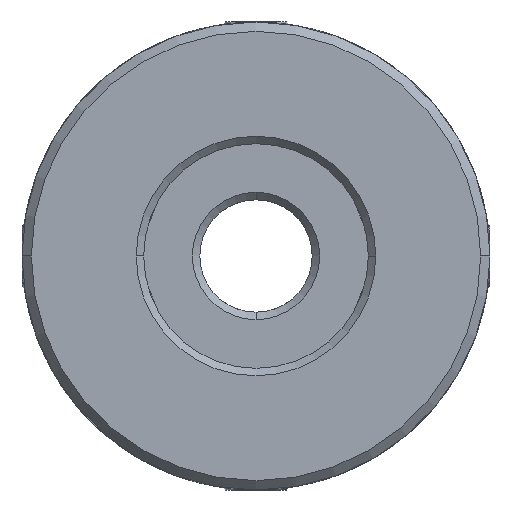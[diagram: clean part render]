
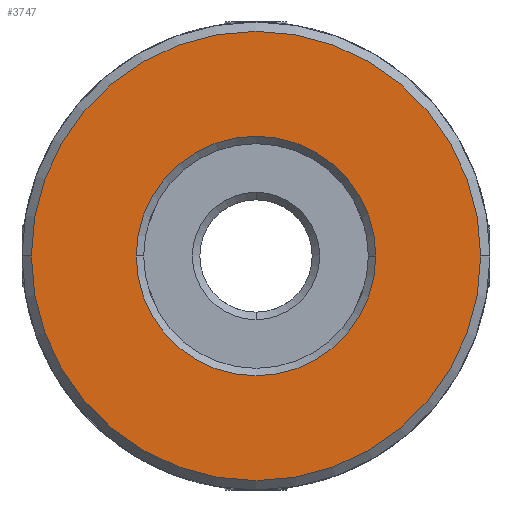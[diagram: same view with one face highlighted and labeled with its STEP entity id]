
A CAD part, front view. The second image highlights one B-rep face of the part: STEP entity #3747.
In plain terms, the highlighted planar face has unit normal (0, -1, 0).
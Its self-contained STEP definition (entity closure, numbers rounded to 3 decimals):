
#406 = CARTESIAN_POINT ( 'NONE',  ( 12., -28., 0. ) ) ;
#681 = DIRECTION ( 'NONE',  ( 0., 1., 0. ) ) ;
#742 = FACE_OUTER_BOUND ( 'NONE', #7156, .T. ) ;
#1364 = CARTESIAN_POINT ( 'NONE',  ( 0., -28., 0. ) ) ;
#2244 = DIRECTION ( 'NONE',  ( -1., 0., 0. ) ) ;
#2374 = DIRECTION ( 'NONE',  ( 0., 1., 0. ) ) ;
#2475 = CARTESIAN_POINT ( 'NONE',  ( 0., -28., 0. ) ) ;
#2882 = CIRCLE ( 'NONE', #7007, 6.4 ) ;
#3261 = AXIS2_PLACEMENT_3D ( 'NONE', #5295, #2374, #6069 ) ;
#3427 = VERTEX_POINT ( 'NONE', #8009 ) ;
#3747 = ADVANCED_FACE ( 'NONE', ( #742, #8620 ), #6133, .F. ) ;
#3883 = CARTESIAN_POINT ( 'NONE',  ( 6.4, -28., 0. ) ) ;
#3970 = VERTEX_POINT ( 'NONE', #3883 ) ;
#4150 = VERTEX_POINT ( 'NONE', #406 ) ;
#4235 = EDGE_CURVE ( 'NONE', #5483, #3970, #2882, .T. ) ;
#4260 = DIRECTION ( 'NONE',  ( -1., 0., 0. ) ) ;
#4298 = EDGE_LOOP ( 'NONE', ( #9850, #4620 ) ) ;
#4339 = DIRECTION ( 'NONE',  ( 0., -1., 0. ) ) ;
#4382 = DIRECTION ( 'NONE',  ( -1., 0., 0. ) ) ;
#4620 = ORIENTED_EDGE ( 'NONE', *, *, #4235, .T. ) ;
#4642 = EDGE_CURVE ( 'NONE', #3970, #5483, #5160, .T. ) ;
#4690 = CIRCLE ( 'NONE', #5306, 12. ) ;
#4722 = ORIENTED_EDGE ( 'NONE', *, *, #8727, .T. ) ;
#5160 = CIRCLE ( 'NONE', #6349, 6.4 ) ;
#5295 = CARTESIAN_POINT ( 'NONE',  ( -19.597, -28., -50. ) ) ;
#5306 = AXIS2_PLACEMENT_3D ( 'NONE', #2475, #6352, #7852 ) ;
#5423 = ORIENTED_EDGE ( 'NONE', *, *, #9732, .T. ) ;
#5483 = VERTEX_POINT ( 'NONE', #6339 ) ;
#5886 = DIRECTION ( 'NONE',  ( 0., 1., 0. ) ) ;
#6069 = DIRECTION ( 'NONE',  ( -1., 0., 0. ) ) ;
#6133 = PLANE ( 'NONE',  #3261 ) ;
#6339 = CARTESIAN_POINT ( 'NONE',  ( -6.4, -28., 0. ) ) ;
#6349 = AXIS2_PLACEMENT_3D ( 'NONE', #7558, #681, #2244 ) ;
#6352 = DIRECTION ( 'NONE',  ( 0., -1., 0. ) ) ;
#7007 = AXIS2_PLACEMENT_3D ( 'NONE', #8864, #5886, #4260 ) ;
#7156 = EDGE_LOOP ( 'NONE', ( #4722, #5423 ) ) ;
#7558 = CARTESIAN_POINT ( 'NONE',  ( 0., -28., 0. ) ) ;
#7852 = DIRECTION ( 'NONE',  ( -1., 0., 0. ) ) ;
#8009 = CARTESIAN_POINT ( 'NONE',  ( -12., -28., 0. ) ) ;
#8620 = FACE_BOUND ( 'NONE', #4298, .T. ) ;
#8727 = EDGE_CURVE ( 'NONE', #3427, #4150, #9633, .T. ) ;
#8864 = CARTESIAN_POINT ( 'NONE',  ( 0., -28., 0. ) ) ;
#9034 = AXIS2_PLACEMENT_3D ( 'NONE', #1364, #4339, #4382 ) ;
#9633 = CIRCLE ( 'NONE', #9034, 12. ) ;
#9732 = EDGE_CURVE ( 'NONE', #4150, #3427, #4690, .T. ) ;
#9850 = ORIENTED_EDGE ( 'NONE', *, *, #4642, .T. ) ;
